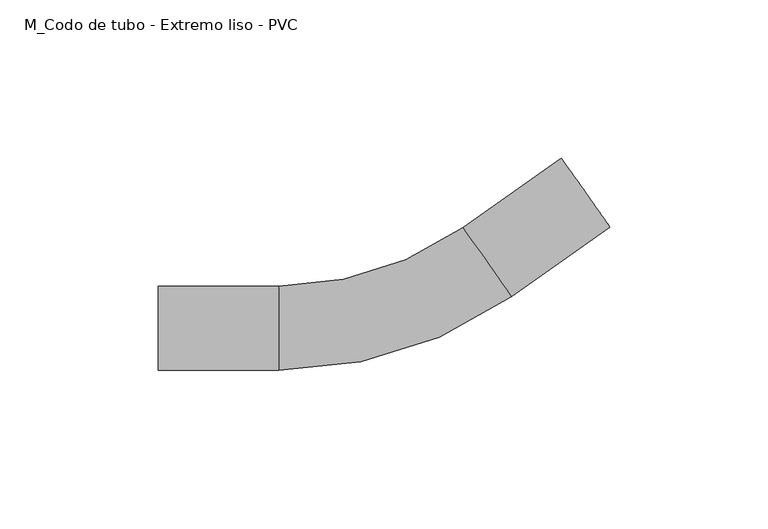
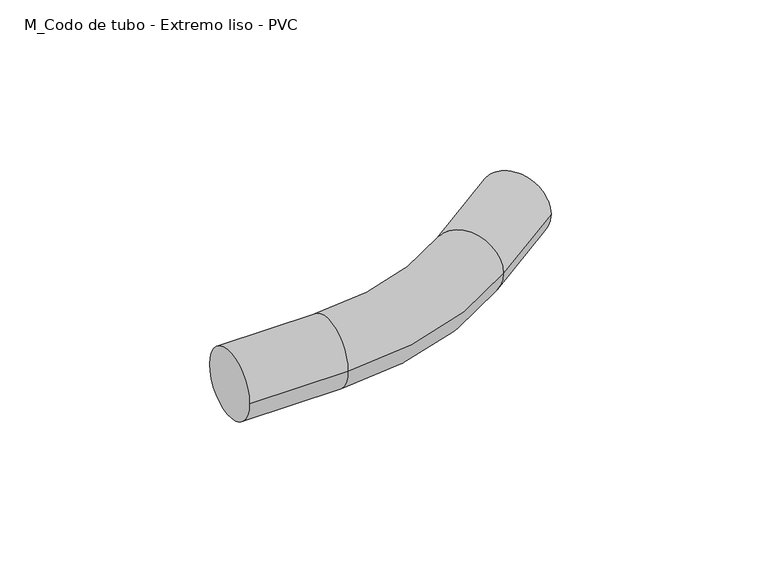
"""IFC4 building model written with IfcOpenShell, lengths in millimetres: cable carrier fitting geometry, M_Codo de tubo - Extremo liso - PVC : CODO ILUMINACION."""

from ifc_helpers import new_model, si_unit, point, frame, origin, place, context, project, spatial, circle_curve, ellipse_curve, trimmed, source, transform, mapped, element, save
from ifc_brep_helpers import plane_surface, cylinder_surface, revolved_surface, advanced_brep


def m_codo_de_tubo_extremo_liso_pvc_f7d6bdcc(model_context):
    return source(origin(), model_context, "Body", "AdvancedBrep", [
        advanced_brep(
        [(-74.3802505, -13.335, 0.0), (-74.3802505, 13.335, 0.0), (-36.2802505, -13.335, 0.0), (-36.2802505, 13.335, 0.0), (21.948292, 31.8174682, 0.0), (37.3294165, 10.0296296, 0.0), (68.4549002, 32.0026645, 0.0), (53.0737757, 53.7905031, 0.0)],
        [
            (0, 1, circle_curve(frame((-74.3802505, 0.0, 0.0), z_axis=(-1.0, 0.0, 0.0), x_axis=(0.0, 1.0, 0.0)), 13.335)),
            (1, 0, circle_curve(frame((-74.3802505, 0.0, 0.0), z_axis=(-1.0, 0.0, 0.0), x_axis=(0.0, 1.0, 0.0)), 13.335)),
            (0, 2),
            (2, 3, circle_curve(frame((-36.2802505, 0.0, 0.0), z_axis=(-1.0, 0.0, 0.0), x_axis=(0.0, 1.0, 0.0)), 13.335)),
            (3, 1),
            (3, 2, circle_curve(frame((-36.2802505, 0.0, 0.0), z_axis=(-1.0, 0.0, 0.0), x_axis=(0.0, 1.0, 0.0)), 13.335)),
            (4, 3, circle_curve(frame((-36.2802505, 114.3, 0.0), z_axis=(0.0, 0.0, -1.0), x_axis=(0.0, -1.0, 0.0)), 100.965)),
            (2, 5, circle_curve(frame((-36.2802505, 114.3, 0.0), z_axis=(0.0, 0.0, 1.0), x_axis=(0.0, -1.0, 0.0)), 127.635)),
            (5, 4, circle_curve(frame((29.6388542, 20.9235489, 0.0), z_axis=(-0.816941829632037, -0.5767200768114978, 0.0), x_axis=(-0.5767200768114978, 0.816941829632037, 0.0)), 13.335)),
            (4, 5, circle_curve(frame((29.6388542, 20.9235489, 0.0), z_axis=(-0.816941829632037, -0.5767200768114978, 0.0), x_axis=(-0.5767200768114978, 0.816941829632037, 0.0)), 13.335)),
            (6, 7, circle_curve(frame((60.764338, 42.8965838, 0.0), z_axis=(0.816941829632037, 0.576720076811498, 0.0), x_axis=(-0.576720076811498, 0.816941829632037, 0.0)), 13.335)),
            (7, 6, circle_curve(frame((60.764338, 42.8965838, 0.0), z_axis=(0.816941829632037, 0.576720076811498, 0.0), x_axis=(-0.576720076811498, 0.816941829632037, 0.0)), 13.335)),
            (5, 6),
            (7, 4),
        ],
        [
            plane_surface(frame((-74.3802505, 0.0, 0.0), z_axis=(-1.0, 0.0, 0.0), x_axis=(0.0, 0.0, 1.0))),
            cylinder_surface(frame((-74.3802505, 0.0, 0.0), z_axis=(-1.0, 0.0, 0.0), x_axis=(0.0, 1.0, 0.0)), 13.335),
            revolved_surface(trimmed(ellipse_curve(frame((-36.2802505, 0.0, 0.0), z_axis=(-1.0, 0.0, 0.0), x_axis=(0.0, 1.0, 0.0)), 13.335, 13.335), [point((-36.2802505, -13.335, 0.0))], [point((-36.2802505, 13.335, 0.0))], True, "CARTESIAN"), (-36.2802505, 114.3, 0.0), (0.0, 0.0, 1.0)),
            revolved_surface(trimmed(ellipse_curve(frame((-36.2802505, 0.0, 0.0), z_axis=(-1.0, 0.0, 0.0), x_axis=(0.0, 1.0, 0.0)), 13.335, 13.335), [point((-36.2802505, 13.335, 0.0))], [point((-36.2802505, -13.335, 0.0))], True, "CARTESIAN"), (-36.2802505, 114.3, 0.0), (0.0, 0.0, 1.0)),
            plane_surface(frame((60.764338, 42.8965838, 0.0), z_axis=(0.816941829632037, 0.576720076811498, 0.0), x_axis=(0.0, 0.0, 1.0))),
            cylinder_surface(frame((29.6388542, 20.9235489, 0.0), z_axis=(-0.816941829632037, -0.576720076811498, 0.0), x_axis=(-0.576720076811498, 0.816941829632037, 0.0)), 13.335),
        ],
        [
            (0, [[1, 2]]),
            (1, [[-1, 3, 4, 5]]),
            (1, [[-2, -5, 6, -3]]),
            (2, [[7, -4, 8, 9]]),
            (3, [[-8, -6, -7, 10]]),
            (4, [[11, 12]]),
            (5, [[-9, 13, -12, 14]]),
            (5, [[-10, -14, -11, -13]]),
        ],
    ),
    ])


if __name__ == "__main__":
    model = new_model("IFC4")
    model_context = context("Model", 3, world=origin())
    ifc_project = project(units=[si_unit("LENGTHUNIT", "METRE", prefix="MILLI")], contexts=[model_context])
    site = spatial("IfcSite", under=ifc_project)
    building = spatial("IfcBuilding", under=site)
    placement = place(None, origin())
    m_codo_de_tubo_extremo_liso_pvc_shape = m_codo_de_tubo_extremo_liso_pvc_f7d6bdcc(model_context)
    element("IfcCableCarrierFitting", 1, ObjectType="M_Codo de tubo - Extremo liso - PVC : CODO ILUMINACION", at=placement, inside=building, context=model_context, shape_type="MappedRepresentation", body=[
        mapped(m_codo_de_tubo_extremo_liso_pvc_shape, transform((0.0, 0.0, 0.0), x_axis=(1.0, 0.0, 0.0), y_axis=(0.0, 1.0, 0.0), z_axis=(0.0, 0.0, 1.0))),
    ])
    save(model, "model.ifc")
